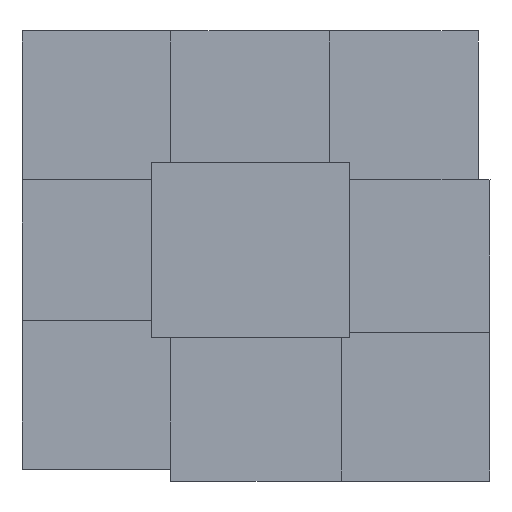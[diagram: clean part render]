
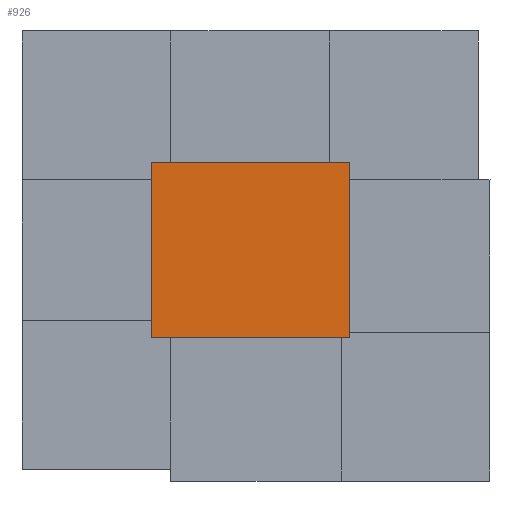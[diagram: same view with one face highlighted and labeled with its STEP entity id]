
A CAD part, left-side view. The second image highlights one B-rep face of the part: STEP entity #926.
In plain terms, the highlighted planar face has unit normal (-1, 0, 0).
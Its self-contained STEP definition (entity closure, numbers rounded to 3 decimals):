
#808=CARTESIAN_POINT('Line Origine',(0.,0.,59.)) ;
#812=CARTESIAN_POINT('Vertex',(0.,0.,0.)) ;
#814=CARTESIAN_POINT('Vertex',(0.,0.,118.)) ;
#883=CARTESIAN_POINT('Vertex',(0.,133.,0.)) ;
#886=CARTESIAN_POINT('Line Origine',(0.,133.,59.)) ;
#890=CARTESIAN_POINT('Vertex',(0.,133.,118.)) ;
#905=CARTESIAN_POINT('Axis2P3D Location',(0.,133.,0.)) ;
#910=CARTESIAN_POINT('Line Origine',(0.,66.5,0.)) ;
#915=CARTESIAN_POINT('Line Origine',(0.,66.5,118.)) ;
#809=DIRECTION('Vector Direction',(0.,0.,1.)) ;
#887=DIRECTION('Vector Direction',(0.,0.,1.)) ;
#906=DIRECTION('Axis2P3D Direction',(-1.,0.,0.)) ;
#907=DIRECTION('Axis2P3D XDirection',(0.,-1.,0.)) ;
#911=DIRECTION('Vector Direction',(0.,-1.,0.)) ;
#916=DIRECTION('Vector Direction',(0.,-1.,0.)) ;
#908=AXIS2_PLACEMENT_3D('Plane Axis2P3D',#905,#906,#907) ;
#921=ORIENTED_EDGE('',*,*,#892,.F.) ;
#922=ORIENTED_EDGE('',*,*,#914,.T.) ;
#923=ORIENTED_EDGE('',*,*,#816,.T.) ;
#924=ORIENTED_EDGE('',*,*,#919,.F.) ;
#810=VECTOR('Line Direction',#809,1.) ;
#888=VECTOR('Line Direction',#887,1.) ;
#912=VECTOR('Line Direction',#911,1.) ;
#917=VECTOR('Line Direction',#916,1.) ;
#926=ADVANCED_FACE('Body.2-molde-superior',(#925),#909,.T.) ;
#816=EDGE_CURVE('',#813,#815,#811,.T.) ;
#892=EDGE_CURVE('',#884,#891,#889,.T.) ;
#914=EDGE_CURVE('',#884,#813,#913,.T.) ;
#919=EDGE_CURVE('',#891,#815,#918,.T.) ;
#920=EDGE_LOOP('',(#921,#922,#923,#924)) ;
#925=FACE_OUTER_BOUND('',#920,.T.) ;
#811=LINE('Line',#808,#810) ;
#889=LINE('Line',#886,#888) ;
#913=LINE('Line',#910,#912) ;
#918=LINE('Line',#915,#917) ;
#909=PLANE('',#908) ;
#813=VERTEX_POINT('',#812) ;
#815=VERTEX_POINT('',#814) ;
#884=VERTEX_POINT('',#883) ;
#891=VERTEX_POINT('',#890) ;
